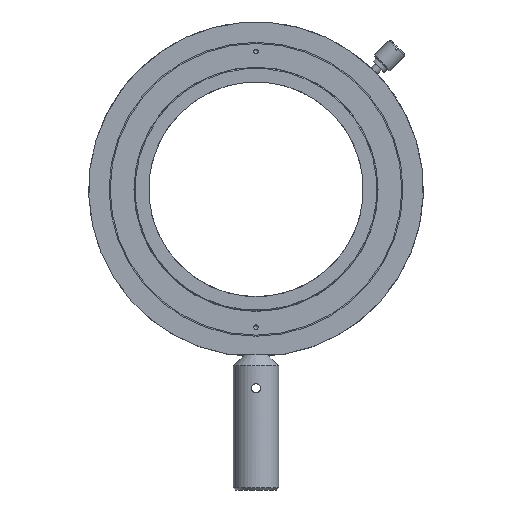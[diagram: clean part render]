
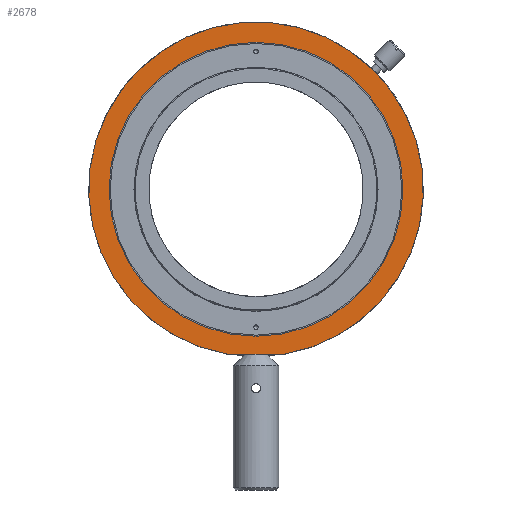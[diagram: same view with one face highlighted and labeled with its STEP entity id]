
A CAD part, left-side view. The second image highlights one B-rep face of the part: STEP entity #2678.
In plain terms, the highlighted planar face has unit normal (-1, 0, 0).
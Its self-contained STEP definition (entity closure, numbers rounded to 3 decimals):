
#2590=CARTESIAN_POINT('',(-19.0,12.124,-73.0));
#2591=VERTEX_POINT('',#2590);
#2598=CARTESIAN_POINT('',(-19.0,-12.124,-73.0));
#2599=VERTEX_POINT('',#2598);
#2600=CARTESIAN_POINT('',(-19.0,0.0,0.0));
#2601=DIRECTION('',(1.,0.0,0.0));
#2602=DIRECTION('',(0.0,0.164,-0.986));
#2603=AXIS2_PLACEMENT_3D('',#2600,#2601,#2602);
#2604=CIRCLE('',#2603,74.);
#2605=EDGE_CURVE('',#2591,#2599,#2604,.T.);
#2653=CARTESIAN_POINT('',(-19.0,0.,-6.693));
#2654=DIRECTION('',(1.0,0.0,0.0));
#2655=DIRECTION('',(0.0,0.0,-1.0));
#2656=AXIS2_PLACEMENT_3D('',#2653,#2654,#2655);
#2657=PLANE('',#2656);
#2658=ORIENTED_EDGE('',*,*,#2605,.F.);
#2659=CARTESIAN_POINT('',(-19.0,-12.124,-73.0));
#2660=DIRECTION('',(0.0,1.0,0.0));
#2661=VECTOR('',#2660,24.249);
#2662=LINE('',#2659,#2661);
#2663=EDGE_CURVE('',#2599,#2591,#2662,.T.);
#2664=ORIENTED_EDGE('',*,*,#2663,.F.);
#2665=EDGE_LOOP('',(#2658,#2664));
#2666=FACE_OUTER_BOUND('',#2665,.T.);
#2667=CARTESIAN_POINT('',(-19.0,0.,65.0));
#2668=VERTEX_POINT('',#2667);
#2669=CARTESIAN_POINT('',(-19.0,0.0,0.0));
#2670=DIRECTION('',(1.0,0.0,0.0));
#2671=DIRECTION('',(0.0,0.0,-1.0));
#2672=AXIS2_PLACEMENT_3D('',#2669,#2670,#2671);
#2673=CIRCLE('',#2672,65.0);
#2674=EDGE_CURVE('',#2668,#2668,#2673,.T.);
#2675=ORIENTED_EDGE('',*,*,#2674,.T.);
#2676=EDGE_LOOP('',(#2675));
#2677=FACE_BOUND('',#2676,.T.);
#2678=ADVANCED_FACE('',(#2666,#2677),#2657,.F.);
